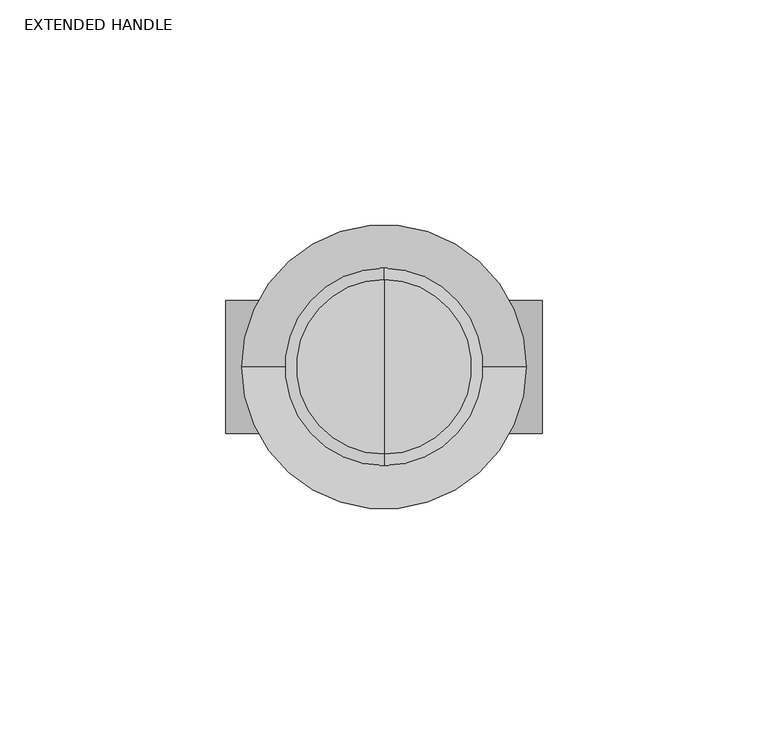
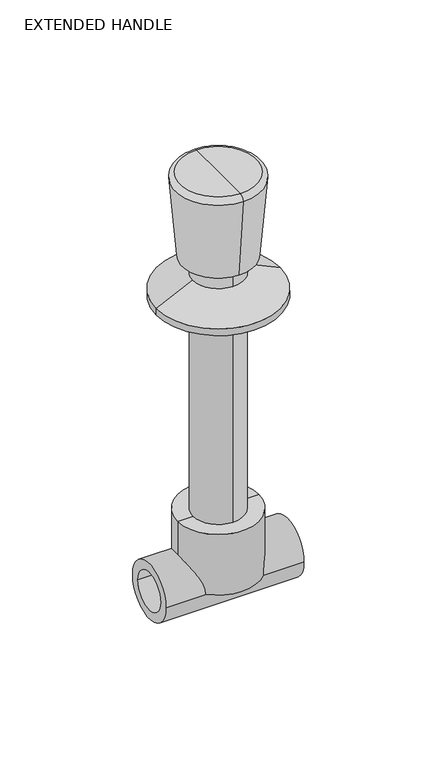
"""IFC4 building model written with IfcOpenShell, lengths in millimetres: valve geometry, Aquatherm - Concealed Valve Extended With Handle : EXTENDED HANDLE."""

from ifc_helpers import new_model, si_unit, point, frame, origin, origin_2d, place, context, project, spatial, polyline, circle_curve, ellipse_curve, trimmed, segment, composite_curve, outline, extrude, source, transform, mapped, element, save
from ifc_brep_helpers import plane_surface, cylinder_surface, revolved_surface, advanced_brep


def extended_handle_822f3e91(model_context):
    return source(origin(), model_context, "Body", "SolidModel", [
        advanced_brep(
        [(0.0, 19.3406564, 213.106), (0.0, -19.3406564, 213.106), (0.0, 0.0, 213.106), (0.0, 21.870991, 210.3446244), (0.0, -21.870991, 210.3446244), (0.0, 18.2125979, 168.529), (0.0, -18.2125979, 168.529), (0.0, 12.9442633, 168.529), (0.0, -12.9442633, 168.529), (0.0, 12.9442633, 159.319595), (0.0, -12.9442633, 159.319595), (0.0, 0.0, 159.319595)],
        [
            (0, 1, circle_curve(frame((0.0, 0.0, 213.106), z_axis=(0.0, 0.0, 1.0), x_axis=(0.0, -1.0, 0.0)), 19.3406564)),
            (1, 2),
            (2, 0),
            (1, 0, circle_curve(frame((0.0, 0.0, 213.106), z_axis=(0.0, 0.0, 1.0), x_axis=(0.0, -1.0, 0.0)), 19.3406564)),
            (3, 4, circle_curve(frame((0.0, 0.0, 210.3446244), z_axis=(0.0, 0.0, 1.0), x_axis=(0.0, -1.0, 0.0)), 21.870991)),
            (4, 1, circle_curve(frame((0.0, -19.3406564, 210.566), z_axis=(-1.0, 0.0, 0.0), x_axis=(0.0, -1.0, 0.0)), 2.54)),
            (0, 3, circle_curve(frame((0.0, 19.3406564, 210.566), z_axis=(-1.0, 0.0, 0.0), x_axis=(0.0, 1.0, 0.0)), 2.54)),
            (4, 3, circle_curve(frame((0.0, 0.0, 210.3446244), z_axis=(0.0, 0.0, 1.0), x_axis=(0.0, -1.0, 0.0)), 21.870991)),
            (5, 6, circle_curve(frame((0.0, 0.0, 168.529), z_axis=(0.0, 0.0, 1.0), x_axis=(0.0, -1.0, 0.0)), 18.2125979)),
            (6, 4),
            (3, 5),
            (6, 5, circle_curve(frame((0.0, 0.0, 168.529), z_axis=(0.0, 0.0, 1.0), x_axis=(0.0, -1.0, 0.0)), 18.2125979)),
            (7, 8, circle_curve(frame((0.0, 0.0, 168.529), z_axis=(0.0, 0.0, 1.0), x_axis=(0.0, -1.0, 0.0)), 12.9442633)),
            (8, 6),
            (5, 7),
            (8, 7, circle_curve(frame((0.0, 0.0, 168.529), z_axis=(0.0, 0.0, 1.0), x_axis=(0.0, -1.0, 0.0)), 12.9442633)),
            (9, 10, circle_curve(frame((0.0, 0.0, 159.319595), z_axis=(0.0, 0.0, 1.0), x_axis=(0.0, -1.0, 0.0)), 12.9442633)),
            (10, 8),
            (7, 9),
            (10, 9, circle_curve(frame((0.0, 0.0, 159.319595), z_axis=(0.0, 0.0, 1.0), x_axis=(0.0, -1.0, 0.0)), 12.9442633)),
            (11, 10),
            (9, 11),
        ],
        [
            plane_surface(frame((0.0, 0.0, 213.106), z_axis=(0.0, 0.0, 1.0), x_axis=(0.0, -1.0, 0.0))),
            revolved_surface(trimmed(ellipse_curve(frame((0.0, -19.3406564, 210.566), z_axis=(1.0, 0.0, 0.0), x_axis=(0.0, -1.0, 0.0)), 2.54, 2.54), [point((0.0, -19.3406564, 213.106))], [point((0.0, -21.870991, 210.3446244))], True, "CARTESIAN"), (0.0, 0.0, 235.6856097), (0.0, 0.0, -1.0)),
            revolved_surface(polyline([(0.0, -21.870991, 210.3446244), (0.0, -18.2125979, 168.529)]), (0.0, 0.0, 235.6856097), (0.0, 0.0, -1.0)),
            plane_surface(frame((0.0, 0.0, 168.529), z_axis=(0.0, 0.0, -1.0), x_axis=(0.0, -1.0, 0.0))),
            cylinder_surface(frame((0.0, 0.0, 235.6856097), z_axis=(0.0, 0.0, -1.0), x_axis=(0.0, -1.0, 0.0)), 12.9442633),
            plane_surface(frame((0.0, 0.0, 159.319595), z_axis=(0.0, 0.0, -1.0), x_axis=(0.0, -1.0, 0.0))),
        ],
        [
            (0, [[1, 2, 3]]),
            (0, [[4, -3, -2]]),
            (1, [[5, 6, -1, 7]]),
            (1, [[8, -7, -4, -6]]),
            (2, [[9, 10, -5, 11]]),
            (2, [[12, -11, -8, -10]]),
            (3, [[13, 14, -9, 15]]),
            (3, [[16, -15, -12, -14]]),
            (4, [[17, 18, -13, 19]]),
            (4, [[20, -19, -16, -18]]),
            (5, [[21, -17, 22]]),
            (5, [[-22, -20, -21]]),
        ],
    ),
        advanced_brep(
        [(-12.827, 0.0, 159.319595), (12.827, 0.0, 159.319595), (-31.496, 0.0, 150.6177667), (31.496, 0.0, 150.6177667)],
        [
            (0, 1, circle_curve(frame((0.0, 0.0, 159.319595), z_axis=(0.0, 0.0, 1.0), x_axis=(-1.0, 0.0, 0.0)), 12.827)),
            (1, 0, circle_curve(frame((0.0, 0.0, 159.319595), z_axis=(0.0, 0.0, 1.0), x_axis=(1.0, 0.0, 0.0)), 12.827)),
            (2, 3, circle_curve(frame((0.0, 0.0, 150.6177667), z_axis=(0.0, 0.0, -1.0), x_axis=(1.0, 0.0, 0.0)), 31.496)),
            (3, 2, circle_curve(frame((0.0, 0.0, 150.6177667), z_axis=(0.0, 0.0, -1.0), x_axis=(-1.0, 0.0, 0.0)), 31.496)),
            (3, 1),
            (0, 2),
        ],
        [
            plane_surface(frame((0.0, 0.0, 159.319595), z_axis=(0.0, 0.0, 1.0), x_axis=(0.0, -1.0, 0.0))),
            plane_surface(frame((0.0, 0.0, 150.6177667), z_axis=(0.0, 0.0, -1.0), x_axis=(0.0, -1.0, 0.0))),
            revolved_surface(polyline([(-12.827000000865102, 0.0, 159.319595), (-31.496, 0.0, 150.6177667)]), (0.0, 0.0, 165.2984022), (0.0, 0.0, -1.0)),
            revolved_surface(polyline([(12.827000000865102, 0.0, 159.319595), (31.496, 0.0, 150.6177667)]), (0.0, 0.0, 165.2984022), (0.0, 0.0, -1.0)),
        ],
        [
            (0, [[1, 2]]),
            (1, [[3, 4]]),
            (2, [[-4, 5, -1, 6]]),
            (3, [[-3, -6, -2, -5]]),
        ],
    ),
        extrude(outline(composite_curve([segment(trimmed(circle_curve(origin_2d(), 31.496), [point((-31.496, 0.0))], [point((31.496, 0.0))], False, "CARTESIAN"), True, "CONTINUOUS"), segment(trimmed(circle_curve(origin_2d(), 31.496), [point((31.496, 0.0))], [point((-31.496, 0.0))], False, "CARTESIAN"), True, "CONTINUOUS")], self_intersect=False)), frame((0.0, 0.0, 147.066), z_axis=(0.0, 0.0, 1.0), x_axis=(1.0, 0.0, 0.0)), (0.0, 0.0, 1.0), 3.5517667),
        extrude(outline(composite_curve([segment(trimmed(circle_curve(origin_2d(), 12.827), [point((0.0, 12.827))], [point((0.0, -12.827))], False, "CARTESIAN"), True, "CONTINUOUS"), segment(trimmed(circle_curve(origin_2d(), 12.827), [point((0.0, -12.827))], [point((0.0, 12.827))], False, "CARTESIAN"), True, "CONTINUOUS")], self_intersect=False)), frame((0.0, 0.0, 32.512), z_axis=(0.0, 0.0, 1.0), x_axis=(1.0, 0.0, 0.0)), (0.0, 0.0, 1.0), 114.554),
        advanced_brep(
        [(0.0, 0.0, 32.512), (20.574, 0.0, 32.512), (-20.574, 0.0, 32.512), (-20.574, 0.0, 0.0), (20.574, 0.0, 0.0), (0.0, 0.0, 0.0)],
        [
            (0, 1),
            (1, 2, circle_curve(frame((0.0, 0.0, 32.512), z_axis=(0.0, 0.0, 1.0), x_axis=(1.0, 0.0, 0.0)), 20.574)),
            (2, 0),
            (2, 1, circle_curve(frame((0.0, 0.0, 32.512), z_axis=(0.0, 0.0, 1.0), x_axis=(1.0, 0.0, 0.0)), 20.574)),
            (3, 4, circle_curve(frame((0.0, 0.0, 0.0), z_axis=(0.0, 0.0, -1.0), x_axis=(1.0, 0.0, 0.0)), 20.574)),
            (4, 5),
            (5, 3),
            (4, 3, circle_curve(frame((0.0, 0.0, 0.0), z_axis=(0.0, 0.0, -1.0), x_axis=(1.0, 0.0, 0.0)), 20.574)),
            (1, 4),
            (3, 2),
        ],
        [
            plane_surface(frame((0.0, 0.0, 32.512), z_axis=(0.0, 0.0, 1.0), x_axis=(1.0, 0.0, 0.0))),
            plane_surface(frame((0.0, 0.0, 0.0), z_axis=(0.0, 0.0, -1.0), x_axis=(1.0, 0.0, 0.0))),
            cylinder_surface(frame((0.0, 0.0, 35.6334888), z_axis=(0.0, 0.0, 1.0), x_axis=(1.0, 0.0, 0.0)), 20.574),
        ],
        [
            (0, [[1, 2, 3]]),
            (0, [[-3, 4, -1]]),
            (1, [[5, 6, 7]]),
            (1, [[8, -7, -6]]),
            (2, [[-2, 9, -5, 10]]),
            (2, [[-4, -10, -8, -9]]),
        ],
    ),
        extrude(outline(composite_curve([segment(trimmed(circle_curve(origin_2d(), 14.732), [point((-14.732, 0.0))], [point((14.732, 0.0))], False, "CARTESIAN"), True, "CONTINUOUS"), segment(trimmed(circle_curve(origin_2d(), 14.732), [point((14.732, 0.0))], [point((-14.732, 0.0))], False, "CARTESIAN"), True, "CONTINUOUS")], self_intersect=False), holes=[composite_curve([segment(trimmed(circle_curve(origin_2d(), 10.033), [point((-10.033, 0.0))], [point((10.033, 0.0))], True, "CARTESIAN"), True, "CONTINUOUS"), segment(trimmed(circle_curve(origin_2d(), 10.033), [point((10.033, 0.0))], [point((-10.033, 0.0))], True, "CARTESIAN"), True, "CONTINUOUS")], self_intersect=False)]), frame((-35.052, 0.0, 0.0), z_axis=(1.0, 0.0, 0.0), x_axis=(0.0, 1.0, 0.0)), (0.0, 0.0, 1.0), 70.104),
    ])


if __name__ == "__main__":
    model = new_model("IFC4")
    model_context = context("Model", 3, world=origin())
    ifc_project = project(units=[si_unit("LENGTHUNIT", "METRE", prefix="MILLI")], contexts=[model_context])
    site = spatial("IfcSite", under=ifc_project)
    building = spatial("IfcBuilding", under=site)
    placement = place(None, origin())
    extended_handle_shape = extended_handle_822f3e91(model_context)
    element("IfcValve", 1, ObjectType="Aquatherm - Concealed Valve Extended With Handle : EXTENDED HANDLE", at=placement, inside=building, context=model_context, shape_type="MappedRepresentation", body=[
        mapped(extended_handle_shape, transform((0.0, 0.0, 0.0), x_axis=(1.0, 0.0, 0.0), y_axis=(0.0, 1.0, 0.0), z_axis=(0.0, 0.0, 1.0))),
    ])
    save(model, "model.ifc")
